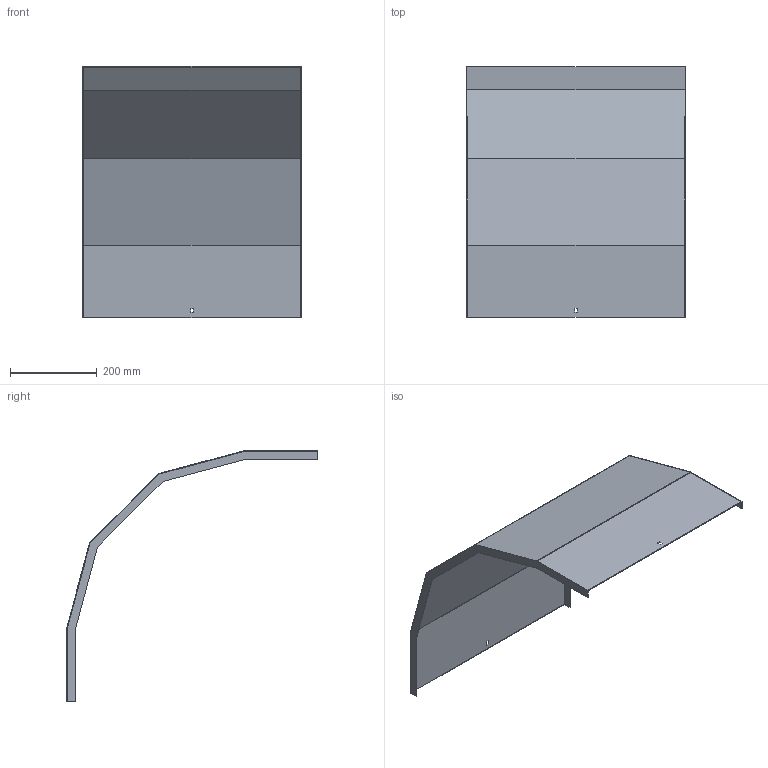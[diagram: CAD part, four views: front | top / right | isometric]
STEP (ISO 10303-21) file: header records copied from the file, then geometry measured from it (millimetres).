
FILE_DESCRIPTION (( 'STEP AP214' ), '1' );
FILE_NAME ('A2_33N3J500.step', '2025-02-21T10:45:37', ( '' ), ( '' ), 'SwSTEP 2.0', 'SolidWorks 2023', '' );
FILE_SCHEMA (( 'AUTOMOTIVE_DESIGN' ));
Length unit declared in the file: millimetre
Products named in the file (1): A2_33N3J500
Bounding box: 503 x 579.05 x 579.05 mm (x, y, z)
Volume: 785260.5 mm3; surface area: 1051550.7 mm2
Topology: 1 solids, 1 shells, 34 faces, 96 edges, 64 vertices
Faces by surface type: plane 34
Entity records: 1111 total; most frequent: CARTESIAN_POINT 195, ORIENTED_EDGE 192, DIRECTION 166, LINE 96, EDGE_CURVE 96, VECTOR 96, VERTEX_POINT 64, EDGE_LOOP 38
